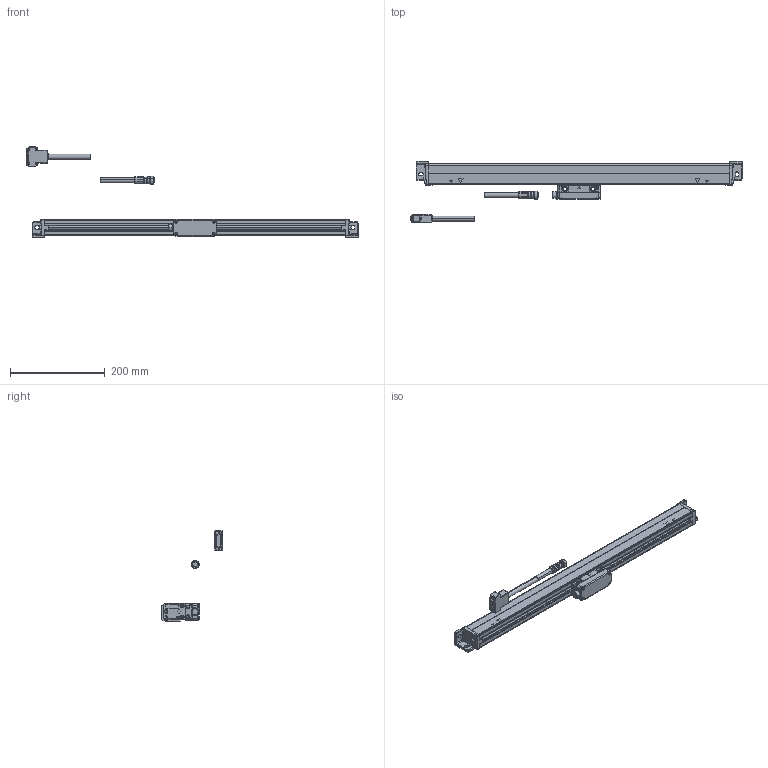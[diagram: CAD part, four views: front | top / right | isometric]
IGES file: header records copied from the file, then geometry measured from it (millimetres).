
Start section: Elysium IGES Interface
Global section: file name: 74H\\Utsu119s\kiyo_cad\data\3D\AT103\HP掲載用_201710\IGES\AT103_AT203-500.igs; native system: Creo Elements/Direct Modeling 18.1B  29-Sep-2012; preprocessor: Creo Element/Direct IGES_3D V2.2; author: Unknown; organization: Unknown; date: 20180105.140237; units: millimetre
Bounding box: 700.83 x 129 x 190.1 mm (x, y, z)
Volume: 1120754.8 mm3; surface area: 165507.6 mm2
Topology: 4 solids, 8 shells, 1072 faces, 2607 edges, 1597 vertices
Faces by surface type: bspline 1072
